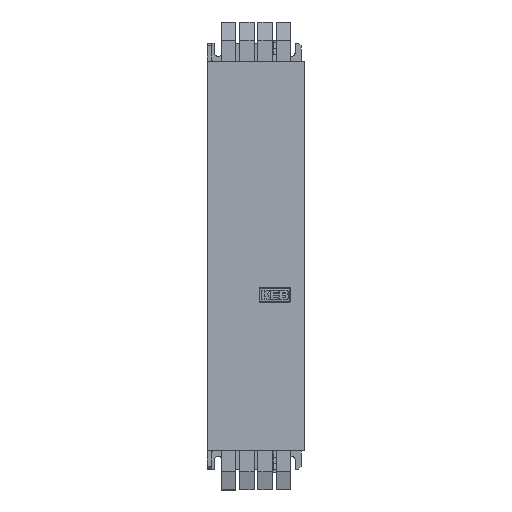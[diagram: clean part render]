
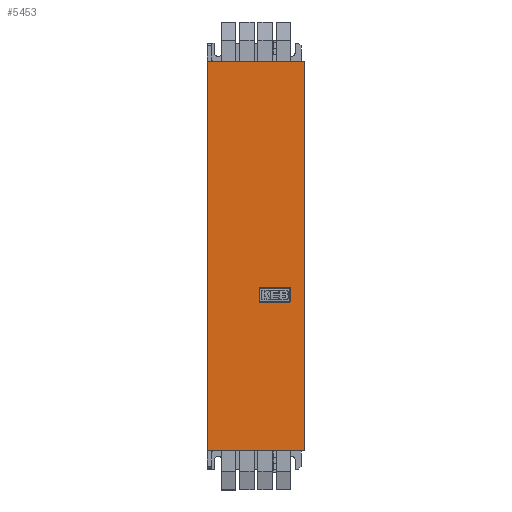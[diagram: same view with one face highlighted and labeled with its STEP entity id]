
A CAD part, top view. The second image highlights one B-rep face of the part: STEP entity #5453.
In plain terms, the highlighted planar face has unit normal (0, 0, 1).
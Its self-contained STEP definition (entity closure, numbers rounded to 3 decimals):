
#123 = VERTEX_POINT ( 'NONE', #6477 ) ;
#131 = EDGE_CURVE ( 'NONE', #123, #6237, #2658, .T. ) ;
#381 = EDGE_LOOP ( 'NONE', ( #2742, #2649, #5446, #7513, #2873, #6402, #8034, #417 ) ) ;
#401 = CARTESIAN_POINT ( 'NONE',  ( 80., -157., 200. ) ) ;
#417 = ORIENTED_EDGE ( 'NONE', *, *, #131, .F. ) ;
#419 = CIRCLE ( 'NONE', #4210, 1. ) ;
#474 = DIRECTION ( 'NONE',  ( -1., 0., 0. ) ) ;
#643 = VERTEX_POINT ( 'NONE', #4103 ) ;
#682 = VECTOR ( 'NONE', #474, 1000. ) ;
#690 = ORIENTED_EDGE ( 'NONE', *, *, #1410, .T. ) ;
#817 = VERTEX_POINT ( 'NONE', #967 ) ;
#824 = VERTEX_POINT ( 'NONE', #2973 ) ;
#833 = EDGE_LOOP ( 'NONE', ( #1769, #6949, #7207, #690 ) ) ;
#869 = VERTEX_POINT ( 'NONE', #2334 ) ;
#918 = DIRECTION ( 'NONE',  ( 0., -1., 0. ) ) ;
#919 = LINE ( 'NONE', #961, #7848 ) ;
#961 = CARTESIAN_POINT ( 'NONE',  ( 42.5, -157., 200. ) ) ;
#967 = CARTESIAN_POINT ( 'NONE',  ( 68.5, -27., 200. ) ) ;
#1026 = CARTESIAN_POINT ( 'NONE',  ( 43.5, -38., 200. ) ) ;
#1107 = CARTESIAN_POINT ( 'NONE',  ( 67.5, -37., 200. ) ) ;
#1196 = VERTEX_POINT ( 'NONE', #3445 ) ;
#1222 = DIRECTION ( 'NONE',  ( -1., 0., 0. ) ) ;
#1303 = VERTEX_POINT ( 'NONE', #6052 ) ;
#1408 = CARTESIAN_POINT ( 'NONE',  ( 80., 160., 200. ) ) ;
#1410 = EDGE_CURVE ( 'NONE', #869, #3426, #6952, .T. ) ;
#1464 = EDGE_CURVE ( 'NONE', #643, #817, #7605, .T. ) ;
#1721 = CARTESIAN_POINT ( 'NONE',  ( 0., -160., 200. ) ) ;
#1723 = DIRECTION ( 'NONE',  ( 0., -1., 0. ) ) ;
#1769 = ORIENTED_EDGE ( 'NONE', *, *, #2636, .F. ) ;
#1824 = CARTESIAN_POINT ( 'NONE',  ( 68.5, -157., 200. ) ) ;
#1825 = CIRCLE ( 'NONE', #7478, 1. ) ;
#2099 = DIRECTION ( 'NONE',  ( -1., 0., 0. ) ) ;
#2334 = CARTESIAN_POINT ( 'NONE',  ( 80., 160., 200. ) ) ;
#2427 = VECTOR ( 'NONE', #3933, 1000. ) ;
#2446 = VERTEX_POINT ( 'NONE', #1026 ) ;
#2553 = EDGE_CURVE ( 'NONE', #869, #4510, #2609, .T. ) ;
#2559 = DIRECTION ( 'NONE',  ( 0., -1., 0. ) ) ;
#2609 = LINE ( 'NONE', #1408, #5942 ) ;
#2636 = EDGE_CURVE ( 'NONE', #5562, #3426, #2696, .T. ) ;
#2649 = ORIENTED_EDGE ( 'NONE', *, *, #1464, .F. ) ;
#2658 = LINE ( 'NONE', #3955, #6713 ) ;
#2696 = LINE ( 'NONE', #5258, #6612 ) ;
#2742 = ORIENTED_EDGE ( 'NONE', *, *, #6401, .F. ) ;
#2873 = ORIENTED_EDGE ( 'NONE', *, *, #7912, .F. ) ;
#2887 = FACE_OUTER_BOUND ( 'NONE', #833, .T. ) ;
#2894 = CIRCLE ( 'NONE', #5041, 1. ) ;
#2929 = DIRECTION ( 'NONE',  ( 0., 0., -1. ) ) ;
#2973 = CARTESIAN_POINT ( 'NONE',  ( 42.5, -27., 200. ) ) ;
#3079 = EDGE_CURVE ( 'NONE', #2446, #1196, #8015, .T. ) ;
#3348 = CARTESIAN_POINT ( 'NONE',  ( 80., -160., 200. ) ) ;
#3426 = VERTEX_POINT ( 'NONE', #4551 ) ;
#3445 = CARTESIAN_POINT ( 'NONE',  ( 67.5, -38., 200. ) ) ;
#3500 = CARTESIAN_POINT ( 'NONE',  ( 43.5, -37., 200. ) ) ;
#3582 = DIRECTION ( 'NONE',  ( 0., 0., 1. ) ) ;
#3606 = LINE ( 'NONE', #8152, #682 ) ;
#3657 = DIRECTION ( 'NONE',  ( 0., 1., 0. ) ) ;
#3722 = DIRECTION ( 'NONE',  ( 0., 1., 0. ) ) ;
#3767 = CARTESIAN_POINT ( 'NONE',  ( 80., 160., 200. ) ) ;
#3930 = DIRECTION ( 'NONE',  ( 0., 1., 0. ) ) ;
#3933 = DIRECTION ( 'NONE',  ( 0., 1., 0. ) ) ;
#3942 = CIRCLE ( 'NONE', #7161, 1. ) ;
#3955 = CARTESIAN_POINT ( 'NONE',  ( 80., -26., 200. ) ) ;
#4062 = VECTOR ( 'NONE', #5567, 1000. ) ;
#4103 = CARTESIAN_POINT ( 'NONE',  ( 68.5, -37., 200. ) ) ;
#4210 = AXIS2_PLACEMENT_3D ( 'NONE', #6282, #5153, #3722 ) ;
#4510 = VERTEX_POINT ( 'NONE', #3348 ) ;
#4551 = CARTESIAN_POINT ( 'NONE',  ( 0., 160., 200. ) ) ;
#4661 = DIRECTION ( 'NONE',  ( 0., 0., 1. ) ) ;
#4894 = EDGE_CURVE ( 'NONE', #6237, #824, #3942, .T. ) ;
#5041 = AXIS2_PLACEMENT_3D ( 'NONE', #1107, #5544, #8111 ) ;
#5153 = DIRECTION ( 'NONE',  ( 0., 0., 1. ) ) ;
#5243 = CARTESIAN_POINT ( 'NONE',  ( 43.5, -27., 200. ) ) ;
#5258 = CARTESIAN_POINT ( 'NONE',  ( 0., -157., 200. ) ) ;
#5446 = ORIENTED_EDGE ( 'NONE', *, *, #7345, .F. ) ;
#5453 = ADVANCED_FACE ( 'NONE', ( #2887, #7412 ), #6188, .F. ) ;
#5544 = DIRECTION ( 'NONE',  ( 0., 0., 1. ) ) ;
#5562 = VERTEX_POINT ( 'NONE', #1721 ) ;
#5567 = DIRECTION ( 'NONE',  ( 1., 0., 0. ) ) ;
#5942 = VECTOR ( 'NONE', #2559, 1000. ) ;
#6052 = CARTESIAN_POINT ( 'NONE',  ( 42.5, -37., 200. ) ) ;
#6188 = PLANE ( 'NONE',  #6501 ) ;
#6237 = VERTEX_POINT ( 'NONE', #6787 ) ;
#6282 = CARTESIAN_POINT ( 'NONE',  ( 67.5, -27., 200. ) ) ;
#6401 = EDGE_CURVE ( 'NONE', #817, #123, #419, .T. ) ;
#6402 = ORIENTED_EDGE ( 'NONE', *, *, #6581, .F. ) ;
#6477 = CARTESIAN_POINT ( 'NONE',  ( 67.5, -26., 200. ) ) ;
#6501 = AXIS2_PLACEMENT_3D ( 'NONE', #401, #2929, #918 ) ;
#6581 = EDGE_CURVE ( 'NONE', #824, #1303, #919, .T. ) ;
#6612 = VECTOR ( 'NONE', #7048, 1000. ) ;
#6701 = CARTESIAN_POINT ( 'NONE',  ( 80., -38., 200. ) ) ;
#6713 = VECTOR ( 'NONE', #2099, 1000. ) ;
#6787 = CARTESIAN_POINT ( 'NONE',  ( 43.5, -26., 200. ) ) ;
#6949 = ORIENTED_EDGE ( 'NONE', *, *, #8322, .F. ) ;
#6952 = LINE ( 'NONE', #3767, #8074 ) ;
#7048 = DIRECTION ( 'NONE',  ( 0., 1., 0. ) ) ;
#7161 = AXIS2_PLACEMENT_3D ( 'NONE', #5243, #4661, #3930 ) ;
#7207 = ORIENTED_EDGE ( 'NONE', *, *, #2553, .F. ) ;
#7345 = EDGE_CURVE ( 'NONE', #1196, #643, #2894, .T. ) ;
#7412 = FACE_BOUND ( 'NONE', #381, .T. ) ;
#7478 = AXIS2_PLACEMENT_3D ( 'NONE', #3500, #3582, #3657 ) ;
#7513 = ORIENTED_EDGE ( 'NONE', *, *, #3079, .F. ) ;
#7605 = LINE ( 'NONE', #1824, #2427 ) ;
#7848 = VECTOR ( 'NONE', #1723, 1000. ) ;
#7912 = EDGE_CURVE ( 'NONE', #1303, #2446, #1825, .T. ) ;
#8015 = LINE ( 'NONE', #6701, #4062 ) ;
#8034 = ORIENTED_EDGE ( 'NONE', *, *, #4894, .F. ) ;
#8074 = VECTOR ( 'NONE', #1222, 1000. ) ;
#8111 = DIRECTION ( 'NONE',  ( 0., 1., 0. ) ) ;
#8152 = CARTESIAN_POINT ( 'NONE',  ( 80., -160., 200. ) ) ;
#8322 = EDGE_CURVE ( 'NONE', #4510, #5562, #3606, .T. ) ;
